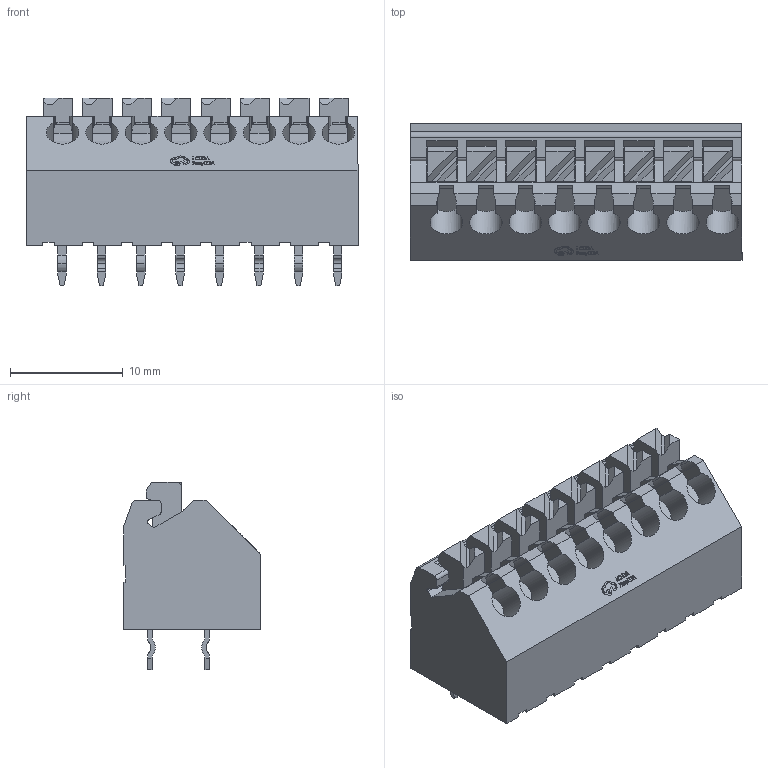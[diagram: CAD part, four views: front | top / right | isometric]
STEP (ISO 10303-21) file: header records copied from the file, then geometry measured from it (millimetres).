
FILE_DESCRIPTION (( 'STEP AP214' ), '1' );
FILE_NAME ('CONN-TH_8P-P3.50_MX250-3.5-08P-A-GY01-CU-A.STEP', '2024-03-16T03:16:57', ( 'User' ), ( 'China' ), 'SwSTEP 2.0', 'SolidWorks 2020', '' );
FILE_SCHEMA (( 'AUTOMOTIVE_DESIGN' ));
Length unit declared in the file: millimetre
Products named in the file (1): CONN-TH_8P-P3.50_MX250-3.5-08P-A-GY01-CU-A
Bounding box: 29.5 x 12.1 x 16.7 mm (x, y, z)
Volume: 3411.8 mm3; surface area: 2463.5 mm2
Topology: 1 solids, 1 shells, 799 faces, 2214 edges, 1452 vertices
Faces by surface type: plane 568, cylinder 125, bspline 106
Entity records: 34705 total; most frequent: CARTESIAN_POINT 6224, ORIENTED_EDGE 4428, DIRECTION 3512, EDGE_CURVE 2214, LINE 1704, VECTOR 1704, VERTEX_POINT 1452, AXIS2_PLACEMENT_3D 904
